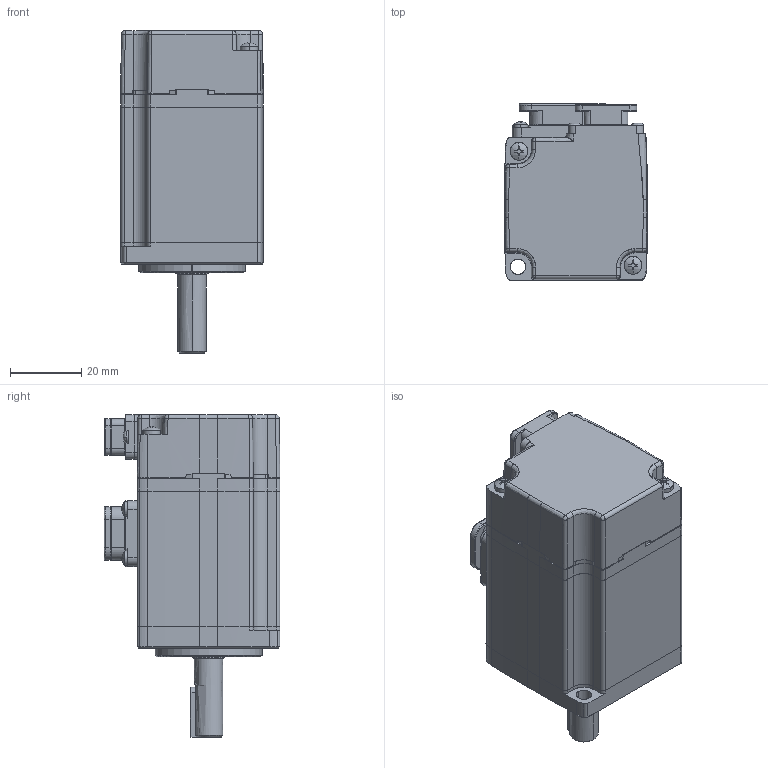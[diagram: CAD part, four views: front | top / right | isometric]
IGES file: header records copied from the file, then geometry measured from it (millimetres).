
Start section: SolidWorks IGES file using analytic representation for surfaces
Global section: file name: Z:\Products\Servo\08.2024\UNITRONICS\B5\UMM-0000BA-B5.IGS; native system: SolidWorks 2022; preprocessor: SolidWorks 2022; author: OfirZ; date: 240820.123641; units: millimetre
Bounding box: 40 x 49.3 x 90.4 mm (x, y, z)
Surface area: 38719.9 mm2 (no closed solid volume)
Topology: 0 solids, 0 shells, 2374 faces, 19830 edges, 19783 vertices
Faces by surface type: bspline 1478, revolution 896
